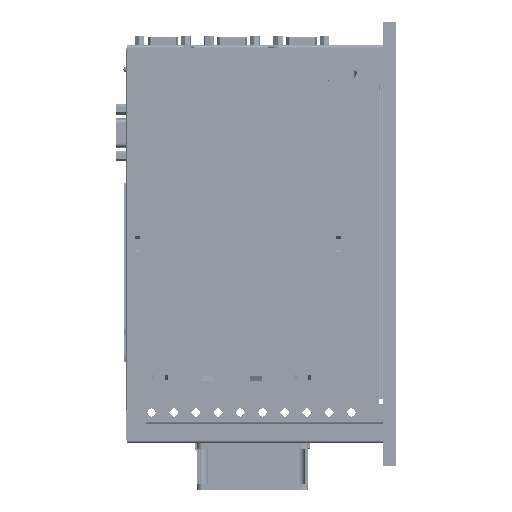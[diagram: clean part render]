
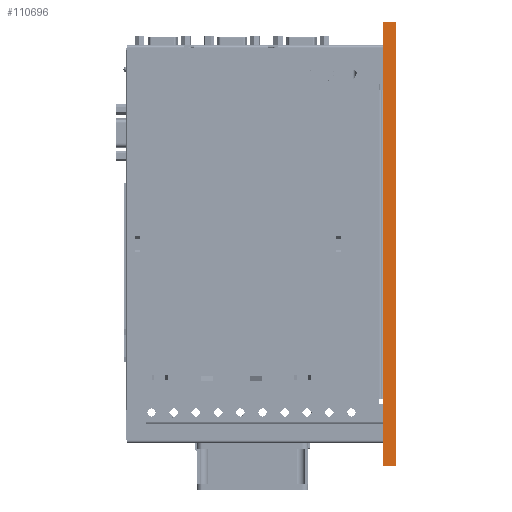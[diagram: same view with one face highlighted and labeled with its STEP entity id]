
A CAD part, left-side view. The second image highlights one B-rep face of the part: STEP entity #110696.
In plain terms, the highlighted planar face has unit normal (-1, 0, 0).
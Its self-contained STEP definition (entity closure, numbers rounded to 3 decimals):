
#29425 = CARTESIAN_POINT ( 'NONE',  ( -35., -3.5, -107.5 ) ) ;
#29443 = CARTESIAN_POINT ( 'NONE',  ( -35., 3.5, -107.5 ) ) ;
#29445 = DIRECTION ( 'NONE',  ( 0., 1., 0. ) ) ;
#29446 = VECTOR ( 'NONE', #29445, 1000. ) ;
#29447 = CARTESIAN_POINT ( 'NONE',  ( -35., -3.5, -107.5 ) ) ;
#29448 = LINE ( 'NONE', #29447, #29446 ) ;
#36145 = CARTESIAN_POINT ( 'NONE',  ( -35., 3.5, 132.5 ) ) ;
#36146 = DIRECTION ( 'NONE',  ( 0., 0., -1. ) ) ;
#36147 = VECTOR ( 'NONE', #36146, 1000. ) ;
#36148 = CARTESIAN_POINT ( 'NONE',  ( -35., 3.5, 132.5 ) ) ;
#36149 = LINE ( 'NONE', #36148, #36147 ) ;
#36769 = FACE_OUTER_BOUND ( 'NONE', #110697, .T. ) ;
#36776 = CARTESIAN_POINT ( 'NONE',  ( -35., -3.5, 132.5 ) ) ;
#36777 = DIRECTION ( 'NONE',  ( 0., 1., 0. ) ) ;
#36778 = VECTOR ( 'NONE', #36777, 1000. ) ;
#36779 = CARTESIAN_POINT ( 'NONE',  ( -35., 3.5, 132.5 ) ) ;
#36780 = LINE ( 'NONE', #36779, #36778 ) ;
#36806 = DIRECTION ( 'NONE',  ( 0., 0., -1. ) ) ;
#36807 = VECTOR ( 'NONE', #36806, 1000. ) ;
#36808 = CARTESIAN_POINT ( 'NONE',  ( -35., -3.5, 132.5 ) ) ;
#36809 = DIRECTION ( 'NONE',  ( 0., 0., 1. ) ) ;
#36810 = DIRECTION ( 'NONE',  ( -1., 0., 0. ) ) ;
#36811 = CARTESIAN_POINT ( 'NONE',  ( -35., 3.5, 132.5 ) ) ;
#36812 = AXIS2_PLACEMENT_3D ( 'NONE', #36811, #36810, #36809 ) ;
#36813 = LINE ( 'NONE', #36808, #36807 ) ;
#36814 = PLANE ( 'NONE',  #36812 ) ;
#106641 = VERTEX_POINT ( 'NONE', #29425 ) ;
#106657 = EDGE_CURVE ( 'NONE', #106641, #106661, #29448, .T. ) ;
#106661 = VERTEX_POINT ( 'NONE', #29443 ) ;
#110314 = EDGE_CURVE ( 'NONE', #110315, #106661, #36149, .T. ) ;
#110315 = VERTEX_POINT ( 'NONE', #36145 ) ;
#110685 = EDGE_CURVE ( 'NONE', #110687, #110315, #36780, .T. ) ;
#110687 = VERTEX_POINT ( 'NONE', #36776 ) ;
#110696 = ADVANCED_FACE ( 'NONE', ( #36769 ), #36814, .T. ) ;
#110697 = EDGE_LOOP ( 'NONE', ( #110698, #110700, #110705, #110800 ) ) ;
#110698 = ORIENTED_EDGE ( 'NONE', *, *, #106657, .F. ) ;
#110700 = ORIENTED_EDGE ( 'NONE', *, *, #110702, .F. ) ;
#110702 = EDGE_CURVE ( 'NONE', #110687, #106641, #36813, .T. ) ;
#110705 = ORIENTED_EDGE ( 'NONE', *, *, #110685, .T. ) ;
#110800 = ORIENTED_EDGE ( 'NONE', *, *, #110314, .T. ) ;
